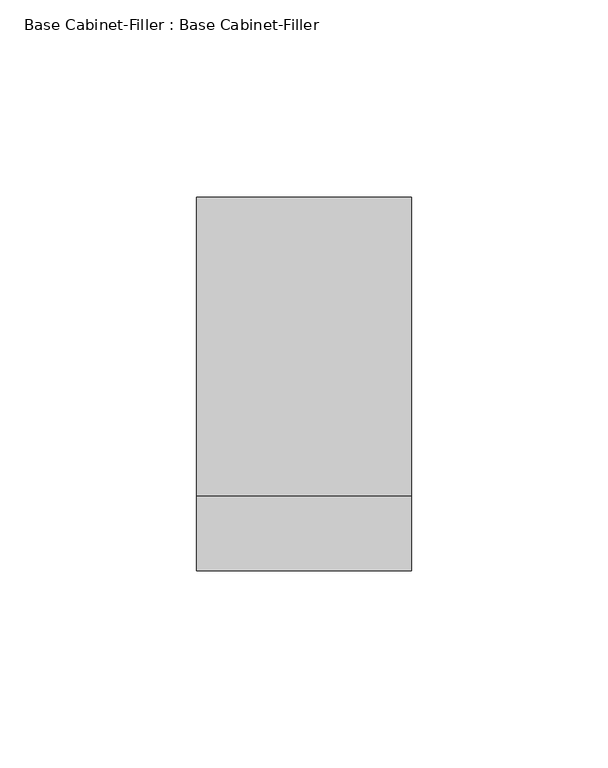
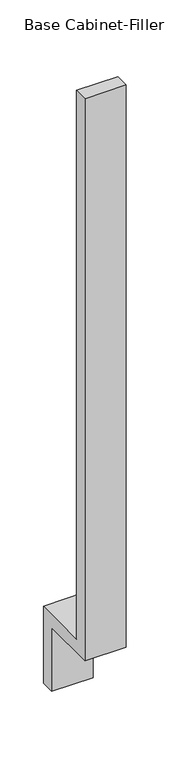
"""IFC4 building model written with IfcOpenShell, lengths in millimetres: furniture geometry, Base Cabinet-Filler : Base Cabinet-Filler."""

import ifcopenshell
import ifcopenshell.guid

model = None  # the IFC model being written
_history = None  # IfcOwnerHistory: only IFC2X3 demands one
_inside = {}  # id of a spatial element -> (the spatial element, [elements in it])
_under = {}  # id of a project, library or spatial element -> (it, [spatial elements below it])
_declared = {}  # id of a project -> (the project, [libraries it declares])
_typed = {}  # id of a type object -> (the type object, [elements of that type])
_made_of = {}  # id of a material, layer set ... -> (it, [elements and type objects made of it])


def new_model(schema):
    """Start an empty IFC model of exactly this schema.

    Asked for "IFC4X3", IfcOpenShell would pick the latest addendum, in which some entities
    have other attributes; the version numbers below select the first issue.
    IFC2X3 requires an IfcOwnerHistory on every rooted entity: one is made here for all.
    """
    global model, _history
    if schema == "IFC4X3":
        model = ifcopenshell.file(schema_version=(4, 3, 0, 0))
    else:
        model = ifcopenshell.file(schema=schema)
    _inside.clear()
    _under.clear()
    _declared.clear()
    _typed.clear()
    _made_of.clear()
    _history = None
    if model.schema == "IFC2X3":
        org = make("IfcOrganization", Name="unknown")
        user = make(
            "IfcPersonAndOrganization",
            ThePerson=make("IfcPerson", FamilyName="unknown"),
            TheOrganization=org,
        )
        app = make(
            "IfcApplication",
            ApplicationDeveloper=org,
            Version="unknown",
            ApplicationFullName="unknown",
            ApplicationIdentifier="unknown",
        )
        _history = make(
            "IfcOwnerHistory",
            OwningUser=user,
            OwningApplication=app,
            ChangeAction="ADDED",
            CreationDate=0,
        )
    return model


def make(cls, **values):
    """One entity of the class cls with the attributes given. An attribute that is None is left unset."""
    return model.create_entity(
        cls, **{name: value for name, value in values.items() if value is not None}
    )


def rooted(cls, **values):
    """An entity with a GlobalId (a new one), such as an element, a storey or a relation."""
    return make(cls, GlobalId=ifcopenshell.guid.new(), OwnerHistory=_history, **values)


def si_unit(unit_type, name, prefix=None):
    """IfcSIUnit, for example si_unit("LENGTHUNIT", "METRE", prefix="MILLI")."""
    return make("IfcSIUnit", UnitType=unit_type, Prefix=prefix, Name=name)


def assignment(units):
    """IfcUnitAssignment: the units of a project."""
    return None if units is None else make("IfcUnitAssignment", Units=units)


def point(xyz):
    """IfcCartesianPoint."""
    return None if xyz is None else make("IfcCartesianPoint", Coordinates=xyz)


def direction(xyz):
    """IfcDirection."""
    return None if xyz is None else make("IfcDirection", DirectionRatios=xyz)


def frame(location, z_axis=None, x_axis=None):
    """IfcAxis2Placement3D, a coordinate frame: its origin and axes. An axis left out is left unset."""
    return make(
        "IfcAxis2Placement3D",
        Location=point(location),
        Axis=direction(z_axis),
        RefDirection=direction(x_axis),
    )


def origin():
    """The frame at (0, 0, 0) with its axes left unset."""
    return frame((0.0, 0.0, 0.0))


def place(relative_to, where):
    """IfcLocalPlacement: puts the frame where relative to a parent placement (None: the world)."""
    return make(
        "IfcLocalPlacement", PlacementRelTo=relative_to, RelativePlacement=where
    )


def context(
    kind, dimensions, precision=None, world=None, true_north=None, identifier=None
):
    """IfcGeometricRepresentationContext, for example the 3D "Model" context."""
    return make(
        "IfcGeometricRepresentationContext",
        ContextIdentifier=identifier,
        ContextType=kind,
        CoordinateSpaceDimension=dimensions,
        Precision=precision,
        WorldCoordinateSystem=world,
        TrueNorth=true_north,
    )


def project(units=None, contexts=None):
    """IfcProject with its units and contexts."""
    return rooted(
        "IfcProject",
        Name="project",
        RepresentationContexts=contexts,
        UnitsInContext=assignment(units),
    )


def spatial(cls, under=None, at=None, **own):
    """A site, building, storey or space (cls), placed at a placement, below another one or the project."""
    s = rooted(cls, ObjectPlacement=at, **own)
    if under is not None:
        _under.setdefault(under.id(), (under, []))[1].append(s)
    return s


def polyline(points):
    """IfcPolyline through the points."""
    return make("IfcPolyline", Points=[point(p) for p in points])


def outline(outer, holes=None, kind="AREA"):
    """IfcArbitraryClosedProfileDef: a profile drawn as a closed curve; with holes, ...WithVoids."""
    if holes is None:
        return make("IfcArbitraryClosedProfileDef", ProfileType=kind, OuterCurve=outer)
    return make(
        "IfcArbitraryProfileDefWithVoids",
        ProfileType=kind,
        OuterCurve=outer,
        InnerCurves=holes,
    )


def extrude(swept, where, along, depth):
    """IfcExtrudedAreaSolid: the profile swept, set in the frame where, extruded along a direction by depth."""
    return make(
        "IfcExtrudedAreaSolid",
        SweptArea=swept,
        Position=where,
        ExtrudedDirection=direction(along),
        Depth=depth,
    )


def shape(context_of_items, identifier, shape_type, items):
    """IfcShapeRepresentation: the items that make up one representation, for example the "Body"."""
    return make(
        "IfcShapeRepresentation",
        ContextOfItems=context_of_items,
        RepresentationIdentifier=identifier,
        RepresentationType=shape_type,
        Items=items,
    )


def source(mapping_origin, context_of_items, identifier, shape_type, items):
    """IfcRepresentationMap: a shape defined once, which mapped items show again and again."""
    return make(
        "IfcRepresentationMap",
        MappingOrigin=mapping_origin,
        MappedRepresentation=shape(context_of_items, identifier, shape_type, items),
    )


def transform(
    local_origin,
    x_axis=None,
    y_axis=None,
    z_axis=None,
    scale=None,
    scale2=None,
    scale3=None,
    uniform=True,
):
    """IfcCartesianTransformationOperator3D, or its non-uniform kind. x_axis, y_axis, z_axis: its Axis1, 2, 3."""
    if uniform:
        return make(
            "IfcCartesianTransformationOperator3D",
            Axis1=direction(x_axis),
            Axis2=direction(y_axis),
            LocalOrigin=point(local_origin),
            Scale=scale,
            Axis3=direction(z_axis),
        )
    return make(
        "IfcCartesianTransformationOperator3DnonUniform",
        Axis1=direction(x_axis),
        Axis2=direction(y_axis),
        LocalOrigin=point(local_origin),
        Scale=scale,
        Axis3=direction(z_axis),
        Scale2=scale2,
        Scale3=scale3,
    )


def mapped(mapping_source, mapping_target):
    """IfcMappedItem: shows the shape of a source again, moved by a transform."""
    return make(
        "IfcMappedItem", MappingSource=mapping_source, MappingTarget=mapping_target
    )


def made_of(thing, what):
    """Note that an element or type object is made of a material, layer set ...; save() writes the relation."""
    if what is not None:
        _made_of.setdefault(what.id(), (what, []))[1].append(thing)
    return thing


def element(
    cls,
    number,
    at=None,
    inside=None,
    cuts=None,
    type_object=None,
    material=None,
    context=None,
    identifier="Body",
    shape_type=None,
    held_by="IfcProductDefinitionShape",
    body=None,
    shapes=None,
    **own,
):
    """One element of the class cls, such as IfcWall. Its Tag is "e" and its number.

    at: its placement. inside: the storey or other place that contains it. cuts: it is an
    opening in that element (IfcRelVoidsElement). A single representation is given by context,
    identifier, shape_type and body (its items); several are given by shapes. held_by: the class
    of the entity that holds the representations. save() writes the other relations.
    """
    e = rooted(cls, Tag="e%d" % number, ObjectPlacement=at, **own)
    if body is not None:
        shapes = [shape(context, identifier, shape_type, body)]
    if shapes is not None:
        e.Representation = make(held_by, Representations=shapes)
    if inside is not None:
        _inside.setdefault(inside.id(), (inside, []))[1].append(e)
    if cuts is not None:
        rooted(
            "IfcRelVoidsElement", RelatingBuildingElement=cuts, RelatedOpeningElement=e
        )
    if type_object is not None:
        _typed.setdefault(type_object.id(), (type_object, []))[1].append(e)
    return made_of(e, material)


def aggregate(whole, parts):
    """IfcRelAggregates: a whole, such as a stair, and the parts it consists of."""
    return rooted("IfcRelAggregates", RelatingObject=whole, RelatedObjects=parts)


def save(model, path):
    """Write the relations noted so far, then the file.

    IfcRelAggregates (storeys below a building ...), IfcRelContainedInSpatialStructure (elements
    in a storey), IfcRelDefinesByType, IfcRelAssociatesMaterial and IfcRelDeclares: one each for
    every whole, place, type object, material and project.
    """
    for whole, parts in _under.values():
        aggregate(whole, parts)
    for where, things in _inside.values():
        rooted(
            "IfcRelContainedInSpatialStructure",
            RelatedElements=things,
            RelatingStructure=where,
        )
    for kind, things in _typed.values():
        rooted("IfcRelDefinesByType", RelatedObjects=things, RelatingType=kind)
    for what, things in _made_of.values():
        rooted("IfcRelAssociatesMaterial", RelatedObjects=things, RelatingMaterial=what)
    for by, libraries in _declared.values():
        rooted("IfcRelDeclares", RelatingContext=by, RelatedDefinitions=libraries)
    model.write(path)


def base_cabinet_filler_base_cabinet_filler_83579e99(model_context):
    return source(origin(), model_context, "Body", "SweptSolid", [
        extrude(outline(polyline([(-609.6, 88.9), (-609.6, 876.3), (-590.55, 876.3), (-590.55, 107.95), (-514.35, 107.95), (-514.35, 0.0), (-533.4, 0.0), (-533.4, 88.9), (-609.6, 88.9)])), frame((-8.6138346, 0.0, 0.0), z_axis=(1.0, 0.0, 0.0), x_axis=(0.0, 1.0, 0.0)), (0.0, 0.0, 1.0), 54.703079),
    ])


if __name__ == "__main__":
    model = new_model("IFC4")
    model_context = context("Model", 3, world=origin())
    ifc_project = project(units=[si_unit("LENGTHUNIT", "METRE", prefix="MILLI")], contexts=[model_context])
    site = spatial("IfcSite", under=ifc_project)
    building = spatial("IfcBuilding", under=site)
    placement = place(None, origin())
    base_cabinet_filler_base_cabinet_filler_shape = base_cabinet_filler_base_cabinet_filler_83579e99(model_context)
    element("IfcFurniture", 1, ObjectType="Base Cabinet-Filler : Base Cabinet-Filler", at=placement, inside=building, context=model_context, shape_type="MappedRepresentation", body=[
        mapped(base_cabinet_filler_base_cabinet_filler_shape, transform((0.0, 0.0, 0.0), x_axis=(1.0, 0.0, 0.0), y_axis=(0.0, 1.0, 0.0), z_axis=(0.0, 0.0, 1.0))),
    ])
    save(model, "model.ifc")
